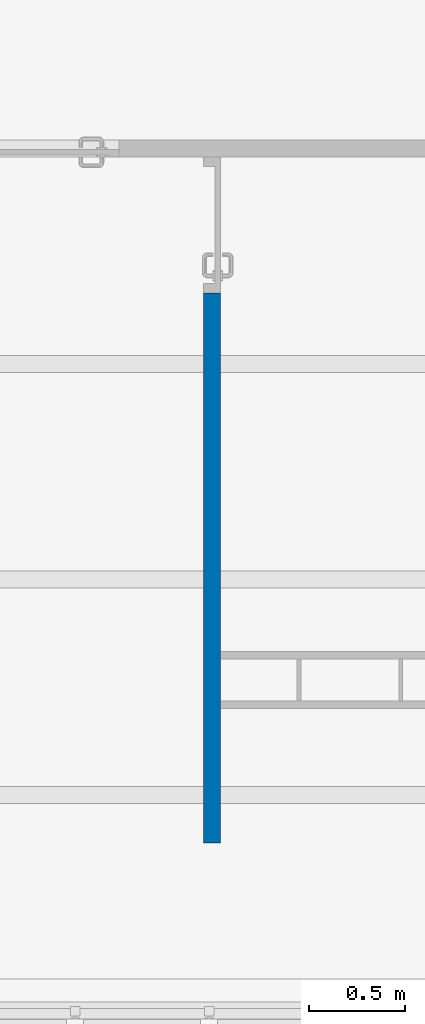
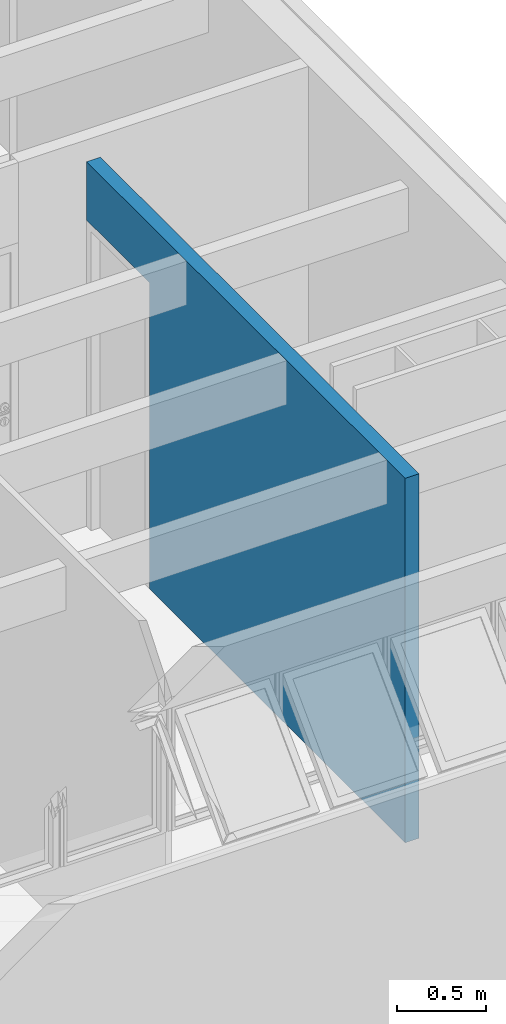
# One storey, part 39 of 41: 1 wall, 1 opening.
"""IFC4 building model written with IfcOpenShell, lengths in millimetres."""

import ifcopenshell
import ifcopenshell.guid

model = None  # the IFC model being written
_history = None  # IfcOwnerHistory: only IFC2X3 demands one
_inside = {}  # id of a spatial element -> (the spatial element, [elements in it])
_under = {}  # id of a project, library or spatial element -> (it, [spatial elements below it])
_declared = {}  # id of a project -> (the project, [libraries it declares])
_typed = {}  # id of a type object -> (the type object, [elements of that type])
_made_of = {}  # id of a material, layer set ... -> (it, [elements and type objects made of it])


def new_model(schema):
    """Start an empty IFC model of exactly this schema.

    Asked for "IFC4X3", IfcOpenShell would pick the latest addendum, in which some entities
    have other attributes; the version numbers below select the first issue.
    IFC2X3 requires an IfcOwnerHistory on every rooted entity: one is made here for all.
    """
    global model, _history
    if schema == "IFC4X3":
        model = ifcopenshell.file(schema_version=(4, 3, 0, 0))
    else:
        model = ifcopenshell.file(schema=schema)
    _inside.clear()
    _under.clear()
    _declared.clear()
    _typed.clear()
    _made_of.clear()
    _history = None
    if model.schema == "IFC2X3":
        org = make("IfcOrganization", Name="unknown")
        user = make(
            "IfcPersonAndOrganization",
            ThePerson=make("IfcPerson", FamilyName="unknown"),
            TheOrganization=org,
        )
        app = make(
            "IfcApplication",
            ApplicationDeveloper=org,
            Version="unknown",
            ApplicationFullName="unknown",
            ApplicationIdentifier="unknown",
        )
        _history = make(
            "IfcOwnerHistory",
            OwningUser=user,
            OwningApplication=app,
            ChangeAction="ADDED",
            CreationDate=0,
        )
    return model


def make(cls, **values):
    """One entity of the class cls with the attributes given. An attribute that is None is left unset."""
    return model.create_entity(
        cls, **{name: value for name, value in values.items() if value is not None}
    )


def entity(cls, *values):
    """Any entity or typed value of the class cls, its attributes in the order of the schema. None: left unset."""
    e = model.create_entity(cls)
    for i, value in enumerate(values):
        if value is not None:
            e[i] = value
    return e


def rooted(cls, **values):
    """An entity with a GlobalId (a new one), such as an element, a storey or a relation."""
    return make(cls, GlobalId=ifcopenshell.guid.new(), OwnerHistory=_history, **values)


def si_unit(unit_type, name, prefix=None):
    """IfcSIUnit, for example si_unit("LENGTHUNIT", "METRE", prefix="MILLI")."""
    return make("IfcSIUnit", UnitType=unit_type, Prefix=prefix, Name=name)


def converted_unit(unit_type, name, factor, base, dimensions=None, offset=None):
    """IfcConversionBasedUnit, such as the inch: factor (a typed value) times the base unit."""
    return make(
        "IfcConversionBasedUnit"
        if offset is None
        else "IfcConversionBasedUnitWithOffset",
        ConversionOffset=offset,
        Dimensions=None
        if dimensions is None
        else entity("IfcDimensionalExponents", *dimensions),
        UnitType=unit_type,
        Name=name,
        ConversionFactor=make(
            "IfcMeasureWithUnit", ValueComponent=factor, UnitComponent=base
        ),
    )


def derived_unit(unit_type, elements):
    """IfcDerivedUnit: a product of units, each with its exponent."""
    return make(
        "IfcDerivedUnit",
        Elements=[
            make("IfcDerivedUnitElement", Unit=unit, Exponent=power)
            for unit, power in elements
        ],
        UnitType=unit_type,
    )


def assignment(units):
    """IfcUnitAssignment: the units of a project."""
    return None if units is None else make("IfcUnitAssignment", Units=units)


def point(xyz):
    """IfcCartesianPoint."""
    return None if xyz is None else make("IfcCartesianPoint", Coordinates=xyz)


def direction(xyz):
    """IfcDirection."""
    return None if xyz is None else make("IfcDirection", DirectionRatios=xyz)


def frame(location, z_axis=None, x_axis=None):
    """IfcAxis2Placement3D, a coordinate frame: its origin and axes. An axis left out is left unset."""
    return make(
        "IfcAxis2Placement3D",
        Location=point(location),
        Axis=direction(z_axis),
        RefDirection=direction(x_axis),
    )


def frame_2d(location, x_axis=None):
    """IfcAxis2Placement2D, a coordinate frame in the plane: its origin and x axis."""
    return make(
        "IfcAxis2Placement2D", Location=point(location), RefDirection=direction(x_axis)
    )


def origin_with_axes():
    """The frame at (0, 0, 0) with the z axis (0, 0, 1) and the x axis (1, 0, 0) written out."""
    return frame((0.0, 0.0, 0.0), z_axis=(0.0, 0.0, 1.0), x_axis=(1.0, 0.0, 0.0))


def origin_2d_with_axis():
    """The frame at (0, 0) in the plane with the x axis (1, 0) written out."""
    return frame_2d((0.0, 0.0), x_axis=(1.0, 0.0))


def place(relative_to, where):
    """IfcLocalPlacement: puts the frame where relative to a parent placement (None: the world)."""
    return make(
        "IfcLocalPlacement", PlacementRelTo=relative_to, RelativePlacement=where
    )


def context(
    kind, dimensions, precision=None, world=None, true_north=None, identifier=None
):
    """IfcGeometricRepresentationContext, for example the 3D "Model" context."""
    return make(
        "IfcGeometricRepresentationContext",
        ContextIdentifier=identifier,
        ContextType=kind,
        CoordinateSpaceDimension=dimensions,
        Precision=precision,
        WorldCoordinateSystem=world,
        TrueNorth=true_north,
    )


def subcontext(parent, identifier, kind, view, scale=None):
    """IfcGeometricRepresentationSubContext, for example "Body" below "Model"."""
    return make(
        "IfcGeometricRepresentationSubContext",
        ContextIdentifier=identifier,
        ContextType=kind,
        ParentContext=parent,
        TargetScale=scale,
        TargetView=view,
    )


def project(units=None, contexts=None):
    """IfcProject with its units and contexts."""
    return rooted(
        "IfcProject",
        Name="project",
        RepresentationContexts=contexts,
        UnitsInContext=assignment(units),
    )


def spatial(cls, under=None, at=None, **own):
    """A site, building, storey or space (cls), placed at a placement, below another one or the project."""
    s = rooted(cls, ObjectPlacement=at, **own)
    if under is not None:
        _under.setdefault(under.id(), (under, []))[1].append(s)
    return s


def point_list(points):
    """IfcCartesianPointList2D or 3D."""
    cls = (
        "IfcCartesianPointList2D" if len(points[0]) == 2 else "IfcCartesianPointList3D"
    )
    return make(cls, CoordList=points)


def line(*indices):
    """IfcLineIndex: a straight run through numbered points of an indexed curve."""
    return model.create_entity("IfcLineIndex", indices)


def indexed_curve(points, segments=None, self_intersect=None):
    """IfcIndexedPolyCurve: lines and arcs through numbered points (the first is 1)."""
    return make(
        "IfcIndexedPolyCurve",
        Points=point_list(points),
        Segments=segments,
        SelfIntersect=self_intersect,
    )


def profile(cls, at=None, kind="AREA", **sizes):
    """A parametric profile (cls). Its sizes go by their IFC names, for example OverallWidth=200.0."""
    return make(cls, ProfileType=kind, Position=at, **sizes)


def rectangle(**sizes):
    """IfcRectangleProfileDef."""
    return profile("IfcRectangleProfileDef", **sizes)


def outline(outer, holes=None, kind="AREA"):
    """IfcArbitraryClosedProfileDef: a profile drawn as a closed curve; with holes, ...WithVoids."""
    if holes is None:
        return make("IfcArbitraryClosedProfileDef", ProfileType=kind, OuterCurve=outer)
    return make(
        "IfcArbitraryProfileDefWithVoids",
        ProfileType=kind,
        OuterCurve=outer,
        InnerCurves=holes,
    )


def extrude(swept, where, along, depth):
    """IfcExtrudedAreaSolid: the profile swept, set in the frame where, extruded along a direction by depth."""
    return make(
        "IfcExtrudedAreaSolid",
        SweptArea=swept,
        Position=where,
        ExtrudedDirection=direction(along),
        Depth=depth,
    )


def shape(context_of_items, identifier, shape_type, items):
    """IfcShapeRepresentation: the items that make up one representation, for example the "Body"."""
    return make(
        "IfcShapeRepresentation",
        ContextOfItems=context_of_items,
        RepresentationIdentifier=identifier,
        RepresentationType=shape_type,
        Items=items,
    )


def material(Name=None, Category=None):
    """IfcMaterial."""
    return make("IfcMaterial", Name=Name, Category=Category)


def layer(
    of_material, thickness, ventilated=None, Name=None, Category=None, Priority=None
):
    """IfcMaterialLayer: one layer of a wall or slab, of a material (None: an air gap)."""
    return make(
        "IfcMaterialLayer",
        Material=of_material,
        LayerThickness=thickness,
        IsVentilated=ventilated,
        Name=Name,
        Category=Category,
        Priority=Priority,
    )


def layer_set(layers, Name=None):
    """IfcMaterialLayerSet."""
    return make("IfcMaterialLayerSet", MaterialLayers=layers, LayerSetName=Name)


def layer_usage(for_layer_set, set_direction, sense, offset, extent=None):
    """IfcMaterialLayerSetUsage: how a layer set lies in its element."""
    return make(
        "IfcMaterialLayerSetUsage",
        ForLayerSet=for_layer_set,
        LayerSetDirection=set_direction,
        DirectionSense=sense,
        OffsetFromReferenceLine=offset,
        ReferenceExtent=extent,
    )


def made_of(thing, what):
    """Note that an element or type object is made of a material, layer set ...; save() writes the relation."""
    if what is not None:
        _made_of.setdefault(what.id(), (what, []))[1].append(thing)
    return thing


def type_object(cls, material=None, **own):
    """A type object (cls), such as IfcWallType, which elements share."""
    return made_of(rooted(cls, **own), material)


def element(
    cls,
    number,
    at=None,
    inside=None,
    cuts=None,
    type_object=None,
    material=None,
    context=None,
    identifier="Body",
    shape_type=None,
    held_by="IfcProductDefinitionShape",
    body=None,
    shapes=None,
    **own,
):
    """One element of the class cls, such as IfcWall. Its Tag is "e" and its number.

    at: its placement. inside: the storey or other place that contains it. cuts: it is an
    opening in that element (IfcRelVoidsElement). A single representation is given by context,
    identifier, shape_type and body (its items); several are given by shapes. held_by: the class
    of the entity that holds the representations. save() writes the other relations.
    """
    e = rooted(cls, Tag="e%d" % number, ObjectPlacement=at, **own)
    if body is not None:
        shapes = [shape(context, identifier, shape_type, body)]
    if shapes is not None:
        e.Representation = make(held_by, Representations=shapes)
    if inside is not None:
        _inside.setdefault(inside.id(), (inside, []))[1].append(e)
    if cuts is not None:
        rooted(
            "IfcRelVoidsElement", RelatingBuildingElement=cuts, RelatedOpeningElement=e
        )
    if type_object is not None:
        _typed.setdefault(type_object.id(), (type_object, []))[1].append(e)
    return made_of(e, material)


def aggregate(whole, parts):
    """IfcRelAggregates: a whole, such as a stair, and the parts it consists of."""
    return rooted("IfcRelAggregates", RelatingObject=whole, RelatedObjects=parts)


def save(model, path):
    """Write the relations noted so far, then the file.

    IfcRelAggregates (storeys below a building ...), IfcRelContainedInSpatialStructure (elements
    in a storey), IfcRelDefinesByType, IfcRelAssociatesMaterial and IfcRelDeclares: one each for
    every whole, place, type object, material and project.
    """
    for whole, parts in _under.values():
        aggregate(whole, parts)
    for where, things in _inside.values():
        rooted(
            "IfcRelContainedInSpatialStructure",
            RelatedElements=things,
            RelatingStructure=where,
        )
    for kind, things in _typed.values():
        rooted("IfcRelDefinesByType", RelatedObjects=things, RelatingType=kind)
    for what, things in _made_of.values():
        rooted("IfcRelAssociatesMaterial", RelatedObjects=things, RelatingMaterial=what)
    for by, libraries in _declared.values():
        rooted("IfcRelDeclares", RelatingContext=by, RelatedDefinitions=libraries)
    model.write(path)


model = new_model("IFC4")

# Units and contexts
model_context = context("Model", 3, precision=0.01, world=origin_with_axes(), true_north=direction((0.0, 1.0)))
body_context = subcontext(model_context, "Body", "Model", "MODEL_VIEW")
ifc_project = project(units=[si_unit("LENGTHUNIT", "METRE", prefix="MILLI"), si_unit("AREAUNIT", "SQUARE_METRE"), si_unit("VOLUMEUNIT", "CUBIC_METRE"), converted_unit("PLANEANGLEUNIT", "DEGREE", entity("IfcPlaneAngleMeasure", 0.0174532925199), si_unit("PLANEANGLEUNIT", "RADIAN"), dimensions=[0, 0, 0, 0, 0, 0, 0]), converted_unit("TIMEUNIT", "Year", entity("IfcTimeMeasure", 31556926.0), si_unit("TIMEUNIT", "SECOND"), dimensions=[0, 0, 1, 0, 0, 0, 0]), si_unit("MASSUNIT", "GRAM", prefix="KILO"), si_unit("THERMODYNAMICTEMPERATUREUNIT", "DEGREE_CELSIUS"), si_unit("LUMINOUSINTENSITYUNIT", "LUMEN"), si_unit("ENERGYUNIT", "JOULE", prefix="MEGA"), derived_unit("THERMALCONDUCTANCEUNIT", [(si_unit("POWERUNIT", "WATT"), 1), (si_unit("LENGTHUNIT", "METRE"), -1), (si_unit("THERMODYNAMICTEMPERATUREUNIT", "KELVIN"), -1)]), derived_unit("SPECIFICHEATCAPACITYUNIT", [(si_unit("ENERGYUNIT", "JOULE"), 1), (si_unit("MASSUNIT", "GRAM", prefix="KILO"), -1), (si_unit("THERMODYNAMICTEMPERATUREUNIT", "KELVIN"), -1)]), derived_unit("MASSDENSITYUNIT", [(si_unit("MASSUNIT", "GRAM", prefix="KILO"), 1), (si_unit("VOLUMEUNIT", "CUBIC_METRE"), -1)])], contexts=[model_context])

# Site, building, storey
site_placement = place(None, origin_with_axes())
site = spatial("IfcSite", under=ifc_project, at=site_placement, Name="Local", CompositionType="ELEMENT")
building_placement = place(site_placement, origin_with_axes())
building = spatial("IfcBuilding", under=site, at=building_placement, Name="Construção", CompositionType="ELEMENT")
storey_placement = place(building_placement, frame((0.0, 0.0, 2650.0), z_axis=(0.0, 0.0, 1.0), x_axis=(1.0, 0.0, 0.0)))
storey = spatial("IfcBuildingStorey", under=building, at=storey_placement, Name="Segundo Pavimento", CompositionType="ELEMENT", Elevation=2650.0)

# Wall, opening
ifc_material = material(Name="GENÉRICO - VEDAÇÃO EXTERNA")
ifc_layer = layer(ifc_material, 90.0, ventilated="UNKNOWN", Name="GENÉRICO - VEDAÇÃO EXTERNA")
ifc_layer_set = layer_set([ifc_layer], Name="GENÉRICO - VEDAÇÃO EXTERNA 90")
ifc_layer_usage = layer_usage(ifc_layer_set, "AXIS2", "NEGATIVE", 0.0)
wall_type = type_object("IfcWallType", Name="GENÉRICO - VEDAÇÃO EXTERNA 90", PredefinedType="NOTDEFINED")
wall_placement = place(storey_placement, frame((13040.0, 18814.7804333, 0.0), z_axis=(0.0, 0.0, 1.0), x_axis=(0.0, 1.0, 0.0)))
wall = element("IfcWall", 1, at=wall_placement, inside=storey, type_object=wall_type, material=ifc_layer_usage, Name="APTO8-PAREDE-012", PredefinedType="NOTDEFINED", context=body_context, shape_type="SweptSolid", body=[
    extrude(outline(indexed_curve([(0.0, -90.0), (3580.0, -90.0), (3580.0, 0.0), (0.0, 0.0)], segments=[line(1, 2, 3, 4, 1)])), origin_with_axes(), (0.0, 0.0, 1.0), 2500.0),
])
opening_placement = place(wall_placement, frame((3225.0, 0.0, 0.0), z_axis=(0.0, 0.0, 1.0), x_axis=(1.0, 0.0, 0.0)))
element("IfcOpeningElement", 2, at=opening_placement, cuts=wall, Name="APTO8-PORTA-003", context=body_context, shape_type="SweptSolid", body=[
    extrude(rectangle(XDim=710.0, YDim=2100.0, at=origin_2d_with_axis()), frame((0.0, -90.0, 1050.0), z_axis=(0.0, -1.0, 0.0), x_axis=(1.0, 0.0, 0.0)), (0.0, 0.0, -1.0), 270.0),
])

save(model, "model.ifc")
